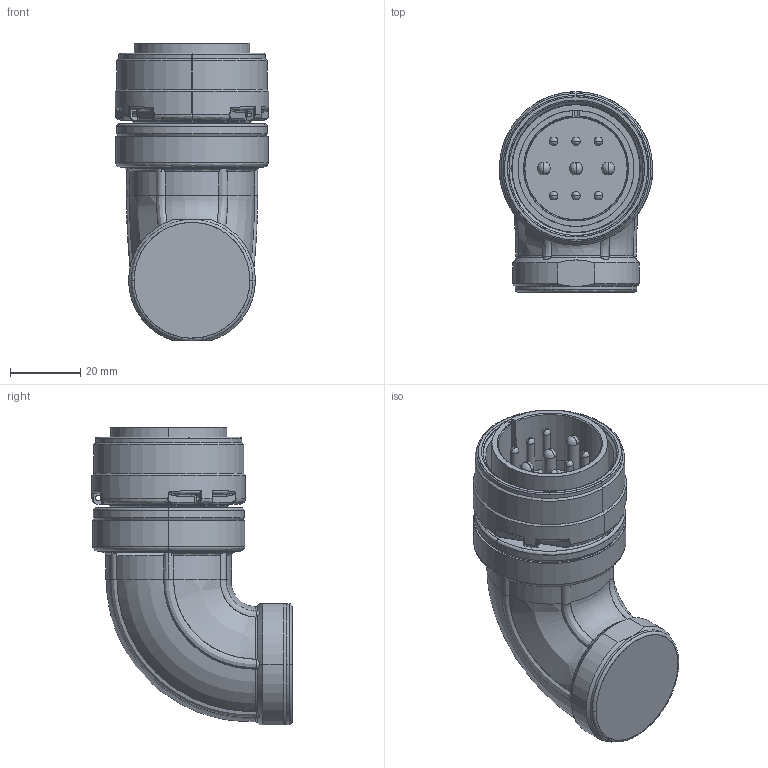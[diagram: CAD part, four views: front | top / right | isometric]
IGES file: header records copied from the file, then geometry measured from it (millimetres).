
Start section: SolidWorks IGES file using analytic representation for surfaces
Bounding box: 43.64 x 56.87 x 84.68 mm (x, y, z)
Surface area: 21849.5 mm2 (no closed solid volume)
Topology: 0 solids, 0 shells, 258 faces, 3505 edges, 3478 vertices
Faces by surface type: revolution 129, bspline 129
